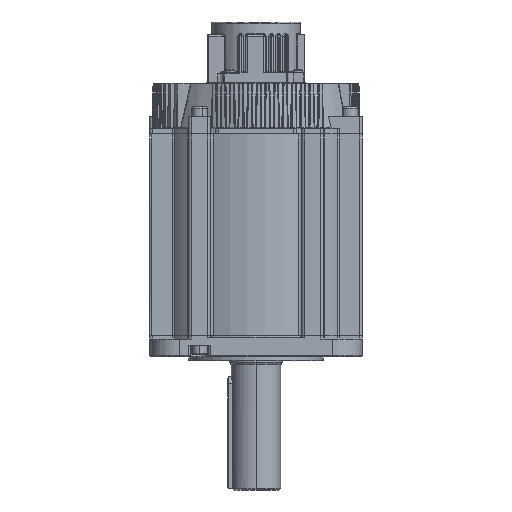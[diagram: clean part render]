
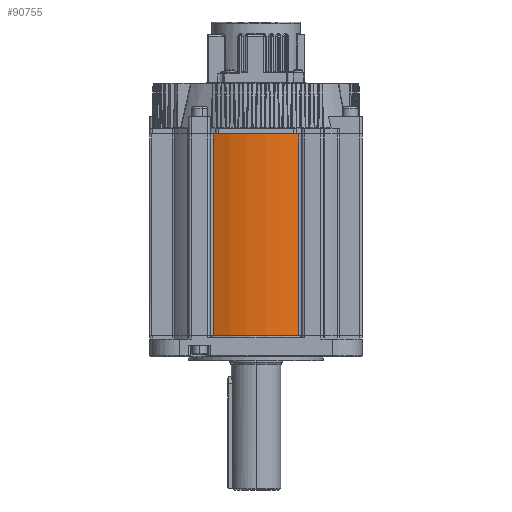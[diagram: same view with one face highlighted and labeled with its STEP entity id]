
A CAD part, front view. The second image highlights one B-rep face of the part: STEP entity #90755.
In plain terms, the highlighted cylindrical face has radius 90 mm (diameter 180 mm), a partial arc.
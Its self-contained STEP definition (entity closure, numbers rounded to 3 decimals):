
#1927 = DIRECTION ( 'NONE',  ( 0., 0., 1. ) ) ;
#2276 = CARTESIAN_POINT ( 'NONE',  ( 0., 0., 0. ) ) ;
#4427 = DIRECTION ( 'NONE',  ( 0., 0., -1. ) ) ;
#11722 = EDGE_CURVE ( 'NONE', #52700, #67593, #48792, .T. ) ;
#14715 = CARTESIAN_POINT ( 'NONE',  ( 0., 0., 171. ) ) ;
#15425 = DIRECTION ( 'NONE',  ( -1., 0., 0. ) ) ;
#31725 = DIRECTION ( 'NONE',  ( 0., 0., 1. ) ) ;
#38088 = CARTESIAN_POINT ( 'NONE',  ( -36.196, -82.401, 0. ) ) ;
#43407 = EDGE_CURVE ( 'NONE', #84398, #90333, #56546, .T. ) ;
#44004 = ORIENTED_EDGE ( 'NONE', *, *, #58463, .T. ) ;
#44748 = AXIS2_PLACEMENT_3D ( 'NONE', #14715, #31725, #15425 ) ;
#48792 = CIRCLE ( 'NONE', #44748, 90. ) ;
#50064 = CYLINDRICAL_SURFACE ( 'NONE', #58116, 90. ) ;
#52700 = VERTEX_POINT ( 'NONE', #86177 ) ;
#52896 = EDGE_LOOP ( 'NONE', ( #98923, #83440, #57158, #44004 ) ) ;
#53148 = CARTESIAN_POINT ( 'NONE',  ( 36.196, -82.401, 0. ) ) ;
#55179 = VECTOR ( 'NONE', #4427, 1000. ) ;
#55361 = CARTESIAN_POINT ( 'NONE',  ( 36.196, -82.401, 171. ) ) ;
#56546 = CIRCLE ( 'NONE', #74083, 90. ) ;
#57158 = ORIENTED_EDGE ( 'NONE', *, *, #43407, .T. ) ;
#58116 = AXIS2_PLACEMENT_3D ( 'NONE', #100291, #71939, #58325 ) ;
#58325 = DIRECTION ( 'NONE',  ( 1., 0., 0. ) ) ;
#58463 = EDGE_CURVE ( 'NONE', #90333, #67593, #76669, .T. ) ;
#67593 = VERTEX_POINT ( 'NONE', #55361 ) ;
#71059 = LINE ( 'NONE', #38088, #55179 ) ;
#71939 = DIRECTION ( 'NONE',  ( 0., 0., 1. ) ) ;
#73023 = CARTESIAN_POINT ( 'NONE',  ( -36.196, -82.401, 0. ) ) ;
#74083 = AXIS2_PLACEMENT_3D ( 'NONE', #2276, #1927, #102380 ) ;
#75872 = EDGE_CURVE ( 'NONE', #52700, #84398, #71059, .T. ) ;
#76669 = LINE ( 'NONE', #53148, #97623 ) ;
#78573 = DIRECTION ( 'NONE',  ( 0., 0., 1. ) ) ;
#83440 = ORIENTED_EDGE ( 'NONE', *, *, #75872, .T. ) ;
#84398 = VERTEX_POINT ( 'NONE', #73023 ) ;
#86177 = CARTESIAN_POINT ( 'NONE',  ( -36.196, -82.401, 171. ) ) ;
#90333 = VERTEX_POINT ( 'NONE', #98828 ) ;
#90755 = ADVANCED_FACE ( 'NONE', ( #98768 ), #50064, .T. ) ;
#97623 = VECTOR ( 'NONE', #78573, 1000. ) ;
#98768 = FACE_OUTER_BOUND ( 'NONE', #52896, .T. ) ;
#98828 = CARTESIAN_POINT ( 'NONE',  ( 36.196, -82.401, 0. ) ) ;
#98923 = ORIENTED_EDGE ( 'NONE', *, *, #11722, .F. ) ;
#100291 = CARTESIAN_POINT ( 'NONE',  ( 0., 0., 0. ) ) ;
#102380 = DIRECTION ( 'NONE',  ( -1., 0., 0. ) ) ;
